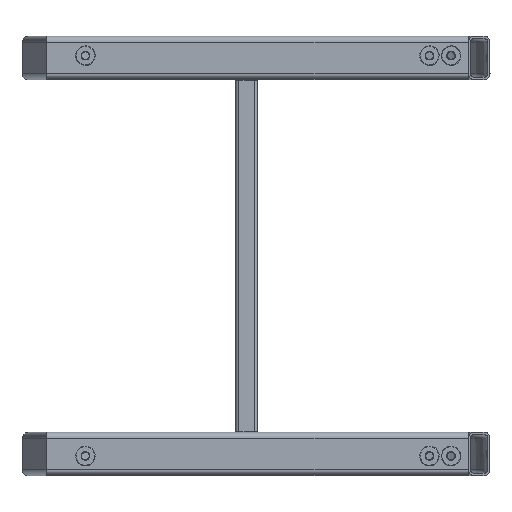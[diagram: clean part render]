
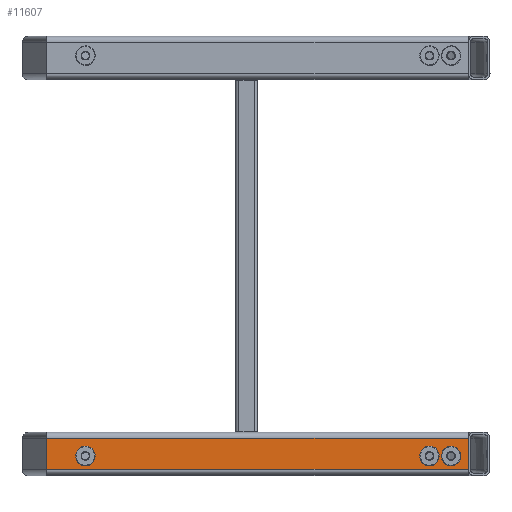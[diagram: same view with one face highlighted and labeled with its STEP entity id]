
A CAD part, top view. The second image highlights one B-rep face of the part: STEP entity #11607.
In plain terms, the highlighted planar face has unit normal (0, 0, 1).
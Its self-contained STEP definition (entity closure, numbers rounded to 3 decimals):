
#11029=CARTESIAN_POINT('Vertex',(785.,-578.5,392.395)) ;
#11032=CARTESIAN_POINT('Line Origine',(785.,-564.,392.395)) ;
#11036=CARTESIAN_POINT('Vertex',(785.,-549.5,392.395)) ;
#11205=CARTESIAN_POINT('Vertex',(1175.038,-549.5,392.395)) ;
#11208=CARTESIAN_POINT('Line Origine',(1175.038,-564.,392.395)) ;
#11212=CARTESIAN_POINT('Vertex',(1175.038,-578.5,392.395)) ;
#11483=CARTESIAN_POINT('Line Origine',(990.,-578.5,392.395)) ;
#11495=CARTESIAN_POINT('Axis2P3D Location',(785.,-564.,392.395)) ;
#11500=CARTESIAN_POINT('Line Origine',(980.019,-549.5,392.395)) ;
#11512=CARTESIAN_POINT('Control Point',(814.824,-566.01,392.395)) ;
#11513=CARTESIAN_POINT('Control Point',(814.825,-566.622,392.395)) ;
#11514=CARTESIAN_POINT('Control Point',(814.901,-567.234,392.395)) ;
#11515=CARTESIAN_POINT('Control Point',(815.052,-567.834,392.395)) ;
#11516=CARTESIAN_POINT('Control Point',(815.498,-568.985,392.395)) ;
#11517=CARTESIAN_POINT('Control Point',(816.208,-569.993,392.395)) ;
#11518=CARTESIAN_POINT('Control Point',(816.623,-570.452,392.395)) ;
#11519=CARTESIAN_POINT('Control Point',(817.558,-571.257,392.395)) ;
#11520=CARTESIAN_POINT('Control Point',(818.659,-571.813,392.395)) ;
#11521=CARTESIAN_POINT('Control Point',(819.242,-572.022,392.395)) ;
#11522=CARTESIAN_POINT('Control Point',(820.445,-572.293,392.395)) ;
#11523=CARTESIAN_POINT('Control Point',(821.679,-572.266,392.395)) ;
#11524=CARTESIAN_POINT('Control Point',(822.291,-572.176,392.395)) ;
#11525=CARTESIAN_POINT('Control Point',(823.481,-571.849,392.395)) ;
#11526=CARTESIAN_POINT('Control Point',(824.556,-571.244,392.395)) ;
#11527=CARTESIAN_POINT('Control Point',(825.054,-570.877,392.395)) ;
#11528=CARTESIAN_POINT('Control Point',(825.95,-570.029,392.395)) ;
#11529=CARTESIAN_POINT('Control Point',(826.614,-568.989,392.395)) ;
#11530=CARTESIAN_POINT('Control Point',(826.881,-568.431,392.395)) ;
#11531=CARTESIAN_POINT('Control Point',(827.157,-567.604,392.395)) ;
#11532=CARTESIAN_POINT('Control Point',(827.287,-566.748,392.395)) ;
#11533=CARTESIAN_POINT('Control Point',(827.312,-566.495,392.395)) ;
#11534=CARTESIAN_POINT('Control Point',(827.324,-566.242,392.395)) ;
#11535=CARTESIAN_POINT('Control Point',(827.324,-565.99,392.395)) ;
#11536=CARTESIAN_POINT('Vertex',(814.824,-566.01,392.395)) ;
#11538=CARTESIAN_POINT('Vertex',(827.324,-565.99,392.395)) ;
#11541=CARTESIAN_POINT('Axis2P3D Location',(821.074,-566.,392.395)) ;
#11550=CARTESIAN_POINT('Axis2P3D Location',(1139.074,-566.,392.395)) ;
#11554=CARTESIAN_POINT('Vertex',(1132.824,-566.,392.395)) ;
#11556=CARTESIAN_POINT('Vertex',(1145.324,-566.,392.395)) ;
#11559=CARTESIAN_POINT('Axis2P3D Location',(1139.074,-566.,392.395)) ;
#11569=CARTESIAN_POINT('Control Point',(1152.824,-566.01,392.395)) ;
#11570=CARTESIAN_POINT('Control Point',(1152.825,-566.622,392.395)) ;
#11571=CARTESIAN_POINT('Control Point',(1152.901,-567.234,392.395)) ;
#11572=CARTESIAN_POINT('Control Point',(1153.052,-567.834,392.395)) ;
#11573=CARTESIAN_POINT('Control Point',(1153.498,-568.985,392.395)) ;
#11574=CARTESIAN_POINT('Control Point',(1154.208,-569.993,392.395)) ;
#11575=CARTESIAN_POINT('Control Point',(1154.623,-570.452,392.395)) ;
#11576=CARTESIAN_POINT('Control Point',(1155.558,-571.257,392.395)) ;
#11577=CARTESIAN_POINT('Control Point',(1156.659,-571.813,392.395)) ;
#11578=CARTESIAN_POINT('Control Point',(1157.242,-572.022,392.395)) ;
#11579=CARTESIAN_POINT('Control Point',(1158.445,-572.293,392.395)) ;
#11580=CARTESIAN_POINT('Control Point',(1159.679,-572.266,392.395)) ;
#11581=CARTESIAN_POINT('Control Point',(1160.291,-572.176,392.395)) ;
#11582=CARTESIAN_POINT('Control Point',(1161.481,-571.849,392.395)) ;
#11583=CARTESIAN_POINT('Control Point',(1162.556,-571.244,392.395)) ;
#11584=CARTESIAN_POINT('Control Point',(1163.054,-570.877,392.395)) ;
#11585=CARTESIAN_POINT('Control Point',(1163.95,-570.029,392.395)) ;
#11586=CARTESIAN_POINT('Control Point',(1164.614,-568.989,392.395)) ;
#11587=CARTESIAN_POINT('Control Point',(1164.881,-568.431,392.395)) ;
#11588=CARTESIAN_POINT('Control Point',(1165.157,-567.604,392.395)) ;
#11589=CARTESIAN_POINT('Control Point',(1165.287,-566.748,392.395)) ;
#11590=CARTESIAN_POINT('Control Point',(1165.312,-566.495,392.395)) ;
#11591=CARTESIAN_POINT('Control Point',(1165.324,-566.242,392.395)) ;
#11592=CARTESIAN_POINT('Control Point',(1165.324,-565.99,392.395)) ;
#11593=CARTESIAN_POINT('Vertex',(1152.824,-566.01,392.395)) ;
#11595=CARTESIAN_POINT('Vertex',(1165.324,-565.99,392.395)) ;
#11598=CARTESIAN_POINT('Axis2P3D Location',(1159.074,-566.,392.395)) ;
#11033=DIRECTION('Vector Direction',(0.,1.,0.)) ;
#11209=DIRECTION('Vector Direction',(0.,-1.,0.)) ;
#11484=DIRECTION('Vector Direction',(1.,0.,0.)) ;
#11496=DIRECTION('Axis2P3D Direction',(-0.,0.,1.)) ;
#11497=DIRECTION('Axis2P3D XDirection',(1.,0.,0.)) ;
#11501=DIRECTION('Vector Direction',(1.,0.,0.)) ;
#11542=DIRECTION('Axis2P3D Direction',(-0.,0.,1.)) ;
#11551=DIRECTION('Axis2P3D Direction',(-0.,0.,1.)) ;
#11560=DIRECTION('Axis2P3D Direction',(-0.,0.,1.)) ;
#11599=DIRECTION('Axis2P3D Direction',(-0.,0.,1.)) ;
#11498=AXIS2_PLACEMENT_3D('Plane Axis2P3D',#11495,#11496,#11497) ;
#11543=AXIS2_PLACEMENT_3D('Circle Axis2P3D',#11541,#11542,$) ;
#11552=AXIS2_PLACEMENT_3D('Circle Axis2P3D',#11550,#11551,$) ;
#11561=AXIS2_PLACEMENT_3D('Circle Axis2P3D',#11559,#11560,$) ;
#11600=AXIS2_PLACEMENT_3D('Circle Axis2P3D',#11598,#11599,$) ;
#11506=ORIENTED_EDGE('',*,*,#11504,.T.) ;
#11507=ORIENTED_EDGE('',*,*,#11038,.F.) ;
#11508=ORIENTED_EDGE('',*,*,#11487,.F.) ;
#11509=ORIENTED_EDGE('',*,*,#11214,.F.) ;
#11547=ORIENTED_EDGE('',*,*,#11540,.F.) ;
#11548=ORIENTED_EDGE('',*,*,#11545,.F.) ;
#11565=ORIENTED_EDGE('',*,*,#11558,.F.) ;
#11566=ORIENTED_EDGE('',*,*,#11563,.F.) ;
#11604=ORIENTED_EDGE('',*,*,#11597,.F.) ;
#11605=ORIENTED_EDGE('',*,*,#11602,.F.) ;
#11549=FACE_BOUND('',#11546,.T.) ;
#11567=FACE_BOUND('',#11564,.T.) ;
#11606=FACE_BOUND('',#11603,.T.) ;
#11034=VECTOR('Line Direction',#11033,1.) ;
#11210=VECTOR('Line Direction',#11209,1.) ;
#11485=VECTOR('Line Direction',#11484,1.) ;
#11502=VECTOR('Line Direction',#11501,1.) ;
#11607=ADVANCED_FACE('\X2\4E3B9A7E652F817F710A63A5603B6210\X0\\\\X2\51E04F554F53\X0\.54',(#11510,#11549,#11567,#11606),#11499,.T.) ;
#11511=B_SPLINE_CURVE_WITH_KNOTS('',5,(#11512,#11513,#11514,#11515,#11516,#11517,#11518,#11519,#11520,#11521,#11522,#11523,#11524,#11525,#11526,#11527,#11528,#11529,#11530,#11531,#11532,#11533,#11534,#11535),.UNSPECIFIED.,.F.,.U.,(6,3,3,3,3,3,3,6),(0.,4.34,8.68,13.021,17.361,21.702,26.042,27.832),.UNSPECIFIED.) ;
#11568=B_SPLINE_CURVE_WITH_KNOTS('',5,(#11569,#11570,#11571,#11572,#11573,#11574,#11575,#11576,#11577,#11578,#11579,#11580,#11581,#11582,#11583,#11584,#11585,#11586,#11587,#11588,#11589,#11590,#11591,#11592),.UNSPECIFIED.,.F.,.U.,(6,3,3,3,3,3,3,6),(0.,4.34,8.68,13.021,17.361,21.702,26.042,27.832),.UNSPECIFIED.) ;
#11544=CIRCLE('generated circle',#11543,6.25) ;
#11553=CIRCLE('generated circle',#11552,6.25) ;
#11562=CIRCLE('generated circle',#11561,6.25) ;
#11601=CIRCLE('generated circle',#11600,6.25) ;
#11038=EDGE_CURVE('',#11030,#11037,#11035,.T.) ;
#11214=EDGE_CURVE('',#11206,#11213,#11211,.T.) ;
#11487=EDGE_CURVE('',#11213,#11030,#11486,.F.) ;
#11504=EDGE_CURVE('',#11206,#11037,#11503,.F.) ;
#11540=EDGE_CURVE('',#11537,#11539,#11511,.T.) ;
#11545=EDGE_CURVE('',#11539,#11537,#11544,.T.) ;
#11558=EDGE_CURVE('',#11555,#11557,#11553,.T.) ;
#11563=EDGE_CURVE('',#11557,#11555,#11562,.T.) ;
#11597=EDGE_CURVE('',#11594,#11596,#11568,.T.) ;
#11602=EDGE_CURVE('',#11596,#11594,#11601,.T.) ;
#11505=EDGE_LOOP('',(#11506,#11507,#11508,#11509)) ;
#11546=EDGE_LOOP('',(#11547,#11548)) ;
#11564=EDGE_LOOP('',(#11565,#11566)) ;
#11603=EDGE_LOOP('',(#11604,#11605)) ;
#11510=FACE_OUTER_BOUND('',#11505,.T.) ;
#11035=LINE('Line',#11032,#11034) ;
#11211=LINE('Line',#11208,#11210) ;
#11486=LINE('Line',#11483,#11485) ;
#11503=LINE('Line',#11500,#11502) ;
#11499=PLANE('Plane',#11498) ;
#11030=VERTEX_POINT('',#11029) ;
#11037=VERTEX_POINT('',#11036) ;
#11206=VERTEX_POINT('',#11205) ;
#11213=VERTEX_POINT('',#11212) ;
#11537=VERTEX_POINT('',#11536) ;
#11539=VERTEX_POINT('',#11538) ;
#11555=VERTEX_POINT('',#11554) ;
#11557=VERTEX_POINT('',#11556) ;
#11594=VERTEX_POINT('',#11593) ;
#11596=VERTEX_POINT('',#11595) ;
